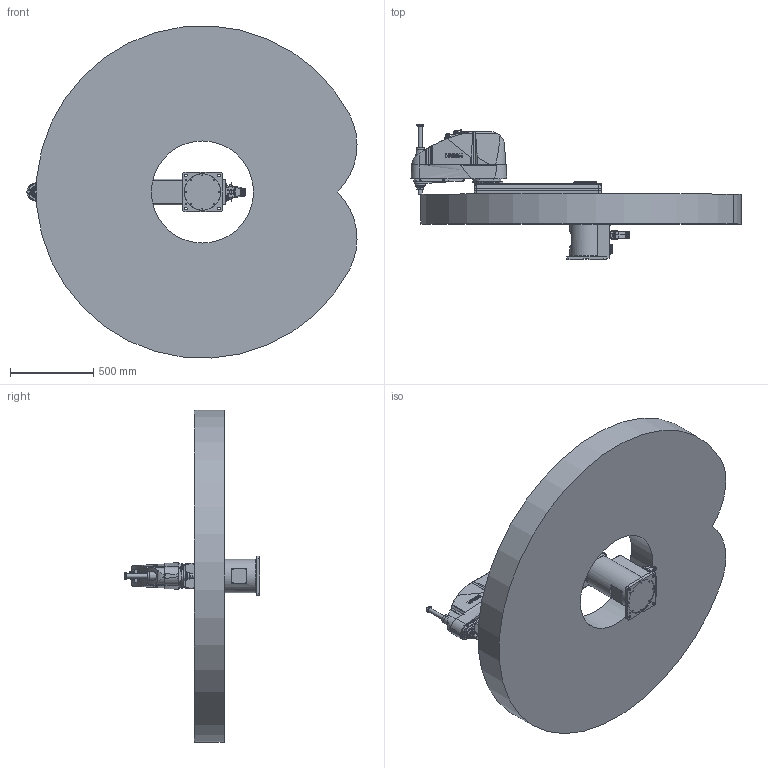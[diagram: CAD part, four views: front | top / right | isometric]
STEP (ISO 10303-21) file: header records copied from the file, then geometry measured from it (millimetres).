
FILE_DESCRIPTION( ( 'STEP AP214' ), '1' );
FILE_NAME( 'C:/Users/9607552/Desktop/GX20-BA01S_straight.stp', '2023-08-01T09:40:54', ( '' ), ( '' ), ' ', 'PARTsolutions', ' ' );
FILE_SCHEMA( ( 'AUTOMOTIVE_DESIGN { 1 0 10303 214 1 1 1 1 }' ) );
Length unit declared in the file: millimetre
Products named in the file (7): GX20-BA01SS-W; _Base s; _Straight-B; _J1 Arm GX10-600; _J2 Arm GX10-s; _J3 Arm GX10-s (1); _GX10_20B-24_1
Assembly tree (6 placements, depth 2):
  GX20-BA01SS-W
    _Base s
    _Straight-B
    _J1 Arm GX10-600
    _J2 Arm GX10-s
    _J3 Arm GX10-s (1)
    _GX10_20B-24_1
Bounding box: 1985.18 x 813.5 x 1997.01 mm (x, y, z)
Volume: 544687828.9 mm3; surface area: 8534174.7 mm2
Topology: 6 solids, 6 shells, 2417 faces, 5906 edges, 3849 vertices
Faces by surface type: plane 1251, cylinder 740, cone 328, torus 65, bspline 32, sphere 1
Full cylindrical faces by diameter (mm): 1 x24, 1.18 x55, 3 x32, 3.242 x10, 3.3 x4, 4.2 x4, 4.8 x4, 5.1 x4, 5.25 x2, 5.34 x4, 5.4 x5, 5.5 x12, 6 x1, 6.2 x4, 6.647 x2, 7 x31, 8 x9, 8.5 x2, 9 x4, 10 x32, 11 x14, 12 x6, 12.25 x1, 13 x2, 14 x8, 14.25 x1, 16 x6, 18 x1, 20.4 x1, 21.7 x2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
Entity records: 91711 total; most frequent: CARTESIAN_POINT 17747, DIRECTION 11248, ORIENTED_EDGE 10502, EDGE_CURVE 5251, AXIS2_PLACEMENT_3D 4329, VERTEX_POINT 3764, EDGE_LOOP 3361, FACE_OUTER_BOUND 2780
